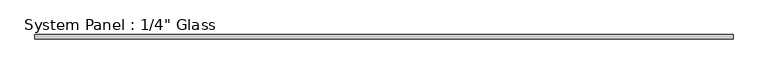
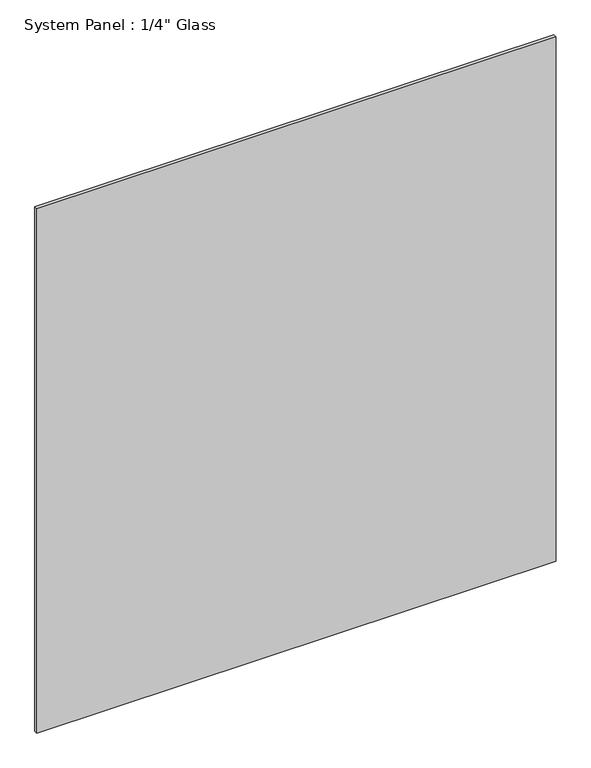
"""IFC4 building model written with IfcOpenShell, lengths in millimetres: plate geometry."""

from ifc_helpers import new_model, si_unit, origin, origin_with_axes, place, context, project, spatial, polyline, outline, extrude, source, transform, mapped, element, save


def plate_e4f452af(model_context):
    return source(origin(), model_context, "Body", "SweptSolid", [
        extrude(outline(polyline([(514.756477, -3.175), (-514.756477, -3.175), (-514.756477, 3.175), (514.756477, 3.175), (514.756477, -3.175)])), origin_with_axes(), (0.0, 0.0, 1.0), 1098.55),
    ])


if __name__ == "__main__":
    model = new_model("IFC4")
    model_context = context("Model", 3, world=origin())
    ifc_project = project(units=[si_unit("LENGTHUNIT", "METRE", prefix="MILLI")], contexts=[model_context])
    site = spatial("IfcSite", under=ifc_project)
    building = spatial("IfcBuilding", under=site)
    placement = place(None, origin())
    plate_shape = plate_e4f452af(model_context)
    element("IfcPlate", 1, ObjectType="System Panel : 1/4\" Glass", at=placement, inside=building, context=model_context, shape_type="MappedRepresentation", body=[
        mapped(plate_shape, transform((0.0, 0.0, 0.0), x_axis=(1.0, 0.0, 0.0), y_axis=(0.0, 1.0, 0.0), z_axis=(0.0, 0.0, 1.0))),
    ])
    save(model, "model.ifc")
